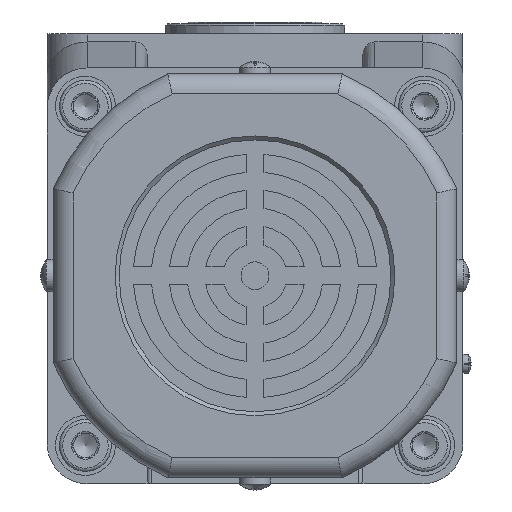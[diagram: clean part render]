
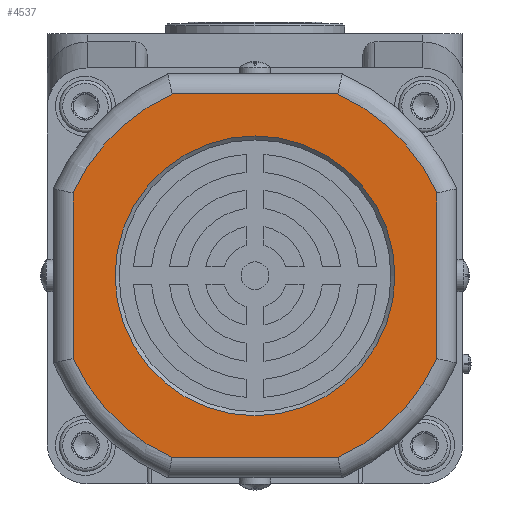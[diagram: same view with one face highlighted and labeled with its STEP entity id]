
A CAD part, front view. The second image highlights one B-rep face of the part: STEP entity #4537.
In plain terms, the highlighted planar face has unit normal (0, -1, 0).
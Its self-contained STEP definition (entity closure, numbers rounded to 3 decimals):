
#486=FACE_BOUND('',#6377,.T.);
#487=FACE_BOUND('',#6378,.T.);
#1961=PLANE('',#15564);
#2525=LINE('',#21936,#3536);
#2526=LINE('',#21941,#3537);
#2527=LINE('',#21945,#3538);
#2528=LINE('',#21949,#3539);
#3536=VECTOR('',#17415,1.);
#3537=VECTOR('',#17418,1.);
#3538=VECTOR('',#17421,1.);
#3539=VECTOR('',#17424,1.);
#4537=ADVANCED_FACE('',(#486,#487),#1961,.F.);
#6377=EDGE_LOOP('',(#7702));
#6378=EDGE_LOOP('',(#7703,#7704,#7705,#7706,#7707,#7708,#7709,#7710));
#7702=ORIENTED_EDGE('',*,*,#12729,.T.);
#7703=ORIENTED_EDGE('',*,*,#12730,.T.);
#7704=ORIENTED_EDGE('',*,*,#12731,.T.);
#7705=ORIENTED_EDGE('',*,*,#12732,.T.);
#7706=ORIENTED_EDGE('',*,*,#12733,.T.);
#7707=ORIENTED_EDGE('',*,*,#12734,.T.);
#7708=ORIENTED_EDGE('',*,*,#12735,.T.);
#7709=ORIENTED_EDGE('',*,*,#12736,.T.);
#7710=ORIENTED_EDGE('',*,*,#12737,.T.);
#11398=VERTEX_POINT('',#21935);
#11399=VERTEX_POINT('',#21937);
#11400=VERTEX_POINT('',#21938);
#11401=VERTEX_POINT('',#21940);
#11402=VERTEX_POINT('',#21942);
#11403=VERTEX_POINT('',#21944);
#11404=VERTEX_POINT('',#21946);
#11405=VERTEX_POINT('',#21948);
#11406=VERTEX_POINT('',#21950);
#12729=EDGE_CURVE('',#11398,#11398,#14558,.T.);
#12730=EDGE_CURVE('',#11399,#11400,#2525,.T.);
#12731=EDGE_CURVE('',#11400,#11401,#14559,.T.);
#12732=EDGE_CURVE('',#11401,#11402,#2526,.T.);
#12733=EDGE_CURVE('',#11402,#11403,#14560,.T.);
#12734=EDGE_CURVE('',#11403,#11404,#2527,.T.);
#12735=EDGE_CURVE('',#11404,#11405,#14561,.T.);
#12736=EDGE_CURVE('',#11405,#11406,#2528,.T.);
#12737=EDGE_CURVE('',#11406,#11399,#14562,.T.);
#14558=CIRCLE('',#15559,35.);
#14559=CIRCLE('',#15560,50.);
#14560=CIRCLE('',#15561,50.);
#14561=CIRCLE('',#15562,50.);
#14562=CIRCLE('',#15563,50.);
#15559=AXIS2_PLACEMENT_3D('',#21934,#17413,#17414);
#15560=AXIS2_PLACEMENT_3D('',#21939,#17416,#17417);
#15561=AXIS2_PLACEMENT_3D('',#21943,#17419,#17420);
#15562=AXIS2_PLACEMENT_3D('',#21947,#17422,#17423);
#15563=AXIS2_PLACEMENT_3D('',#21951,#17425,#17426);
#15564=AXIS2_PLACEMENT_3D('',#21952,#17427,#17428);
#17413=DIRECTION('',(0.,1.,0.));
#17414=DIRECTION('',(-1.,0.,0.));
#17415=DIRECTION('',(0.,0.,1.));
#17416=DIRECTION('',(0.,-1.,0.));
#17417=DIRECTION('',(-1.,0.,0.));
#17418=DIRECTION('',(-1.,0.,0.));
#17419=DIRECTION('',(0.,-1.,0.));
#17420=DIRECTION('',(-1.,0.,0.));
#17421=DIRECTION('',(0.,0.,-1.));
#17422=DIRECTION('',(0.,-1.,0.));
#17423=DIRECTION('',(-1.,0.,0.));
#17424=DIRECTION('',(1.,0.,0.));
#17425=DIRECTION('',(0.,-1.,0.));
#17426=DIRECTION('',(-1.,0.,0.));
#17427=DIRECTION('',(0.,1.,0.));
#17428=DIRECTION('',(-1.,0.,0.));
#21934=CARTESIAN_POINT('',(0.,-362.,-60.5));
#21935=CARTESIAN_POINT('',(-35.,-362.,-60.5));
#21936=CARTESIAN_POINT('',(45.5,-362.,-38.711));
#21937=CARTESIAN_POINT('',(45.5,-362.,-81.23));
#21938=CARTESIAN_POINT('',(45.5,-362.,-39.77));
#21939=CARTESIAN_POINT('',(0.,-362.,-60.5));
#21940=CARTESIAN_POINT('',(20.73,-362.,-15.));
#21941=CARTESIAN_POINT('',(-21.789,-362.,-15.));
#21942=CARTESIAN_POINT('',(-20.73,-362.,-15.));
#21943=CARTESIAN_POINT('',(0.,-362.,-60.5));
#21944=CARTESIAN_POINT('',(-45.5,-362.,-39.77));
#21945=CARTESIAN_POINT('',(-45.5,-362.,-82.289));
#21946=CARTESIAN_POINT('',(-45.5,-362.,-81.23));
#21947=CARTESIAN_POINT('',(0.,-362.,-60.5));
#21948=CARTESIAN_POINT('',(-20.73,-362.,-106.));
#21949=CARTESIAN_POINT('',(21.789,-362.,-106.));
#21950=CARTESIAN_POINT('',(20.73,-362.,-106.));
#21951=CARTESIAN_POINT('',(0.,-362.,-60.5));
#21952=CARTESIAN_POINT('',(0.,-362.,-60.5));
